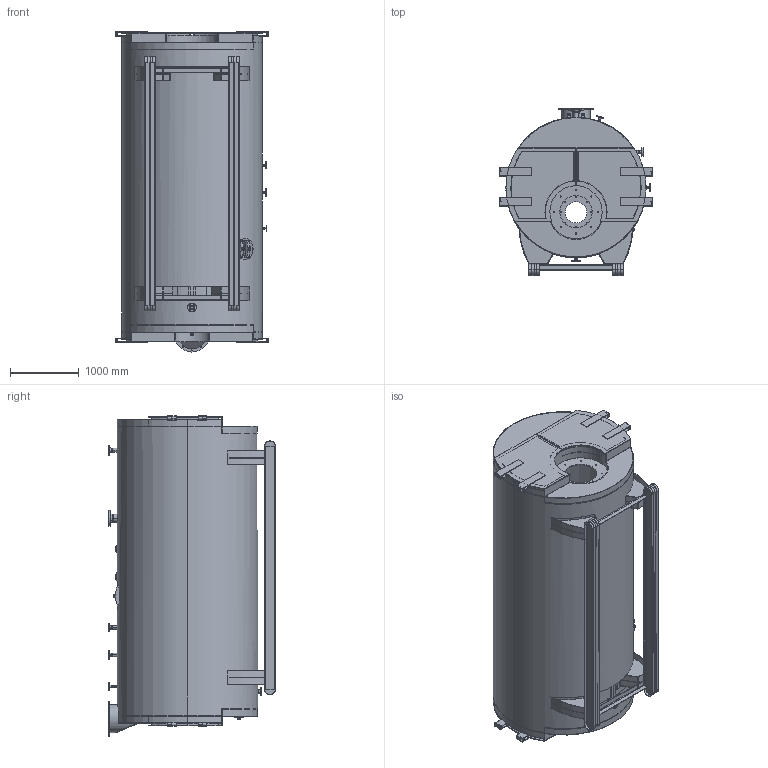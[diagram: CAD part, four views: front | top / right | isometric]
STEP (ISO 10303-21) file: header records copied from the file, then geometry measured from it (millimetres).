
FILE_DESCRIPTION (( 'STEP AP214' ), '1' );
FILE_NAME ('2000kW.STEP', '2024-05-06T06:53:31', ( '' ), ( '' ), 'SwSTEP 2.0', 'SolidWorks 2022', '' );
FILE_SCHEMA (( 'AUTOMOTIVE_DESIGN' ));
Length unit declared in the file: millimetre
Products named in the file (66): pipe 1.5''''(80) for N8; 4''''(40); welding neck flange_WNeck Flange 150-NPS1.5; RD1; IPN; welding neck flange_WNeck Flange 150-NPS4; welding neck flange_WNeck Flange 150-NPS2; Front Door (left); Stack(2000); pipe 4''''(40); RD2; welding neck flange_WNeck Flange 150-NPS0.5; U plate; FD15; Front Door; IPN160; 0.5''''(80); Man 1; FD6; Saddle; hex bolt gradeab_din_PreviewCfg; Front Door (Right); 2000kW; FL Door and Hing; pipe 1''''(80); Rear Door (left); pipe 0.5''''(80); FD2; pipe2''''(80); Manhole assy; mid U plate; pipe1.5''''(80) for N7; hand 1; Man 3; 1.5''''(80); 1.5''''(80) for N7; head 3; head 2; welding neck flange_WNeck Flange 150-NPS1; 80-80-6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
Assembly tree (117 placements, depth 5):
  2000kW
    Shell
    Saddle  x4
    IPN
      IPN160  x4
      U plate  x8
      mid U plate  x8
    80-80-6  x2
    1''''(80)  x5
      welding neck flange_WNeck Flange 150-NPS1
      pipe 1''''(80)
    2''''(80)
      welding neck flange_WNeck Flange 150-NPS2
      pipe2''''(80)
    4''''(40)
      welding neck flange_WNeck Flange 150-NPS4
      pipe 4''''(40)
    Manhole assy
      Man 2
      Man 1  x2
      Man 3
      hex bolt gradeab_din_PreviewCfg  x2
    Headhole assy
      head 2
      head 1  x2
      head 3
      hex bolt gradeab_din_PreviewCfg  x2
    Cover
    1.5''''(80) for N8
      welding neck flange_WNeck Flange 150-NPS1.5
      pipe1.5''''(80) for N7
    1.5''''(80) for N7
      welding neck flange_WNeck Flange 150-NPS1.5
      pipe 1.5''''(80) for N8
    0.5''''(80)
      welding neck flange_WNeck Flange 150-NPS0.5
      pipe 0.5''''(80)
    1.5''''(80)  x2
      welding neck flange_WNeck Flange 150-NPS1.5
      pipe1.5''''(80)
    Front Door
      FD1
      FD2
      Front Door (left)
        FL Door and Hing
          FD15  x4
          FD6
          FD7
        Front Door (left)
      Front Door (Right)
        FL Door and Hing
          FD15  x4
          FD6
          FD7
        Front Door (Right)
    Rear Door
      RD1
      RD2
      Stack(2000)
      Rear Door (left)
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Bounding box: 2240 x 2430 x 4660 mm (x, y, z)
Volume: 767478179.1 mm3; surface area: 160686434.7 mm2
Topology: 157 solids, 157 shells, 1896 faces, 4545 edges, 2944 vertices
Faces by surface type: plane 932, cylinder 823, bspline 67, cone 64, torus 10
Full cylindrical faces by diameter (mm): 398 x1, 410 x1
Entity records: 48267 total; most frequent: CARTESIAN_POINT 15899, DIRECTION 6356, ORIENTED_EDGE 5888, EDGE_CURVE 2944, AXIS2_PLACEMENT_3D 2372, VERTEX_POINT 1910, VECTOR 1612, LINE 1612
